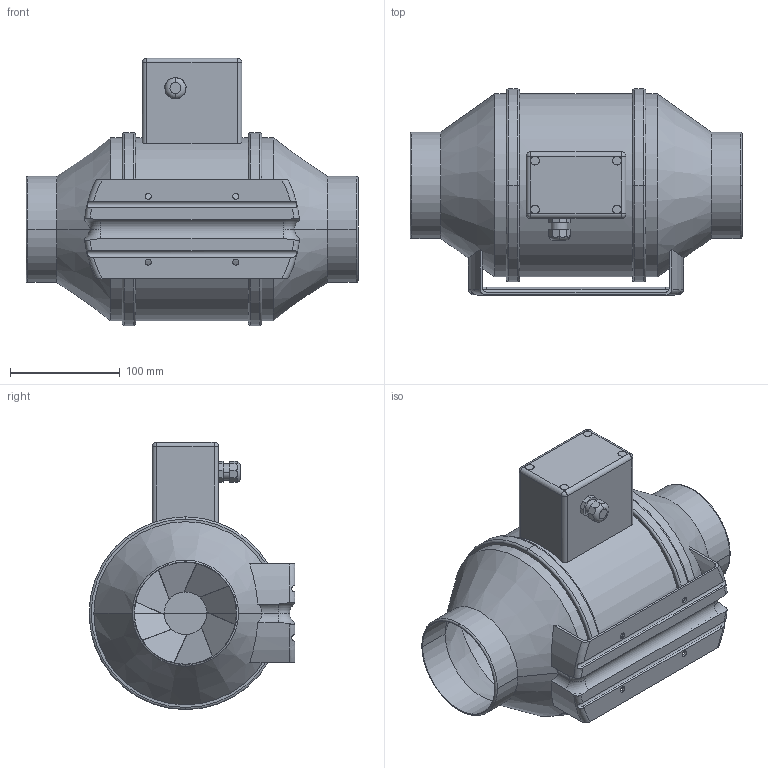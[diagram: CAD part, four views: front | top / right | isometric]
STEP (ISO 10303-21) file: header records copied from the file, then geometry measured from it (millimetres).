
FILE_DESCRIPTION(('STEP AP214'),'1');
FILE_NAME('fan_5211021000.stp','2017-03-31T12:39:09',('TraceParts'),('TraceParts S.A.'),'Spatial InterOp 3D',' ',' ');
FILE_SCHEMA(('automotive_design'));
Length unit declared in the file: millimetre
Products named in the file (1): fan_5211021000
Bounding box: 303 x 188 x 244 mm (x, y, z)
Volume: 878425.1 mm3; surface area: 417675.3 mm2
Topology: 1 solids, 1 shells, 222 faces, 627 edges, 399 vertices
Faces by surface type: cylinder 92, plane 84, torus 34, cone 8, sphere 4
Entity records: 11709 total; most frequent: CARTESIAN_POINT 4139, ORIENTED_EDGE 1246, DIRECTION 1229, EDGE_CURVE 623, AXIS2_PLACEMENT_3D 507, VERTEX_POINT 399, EDGE_LOOP 246, CIRCLE 232
